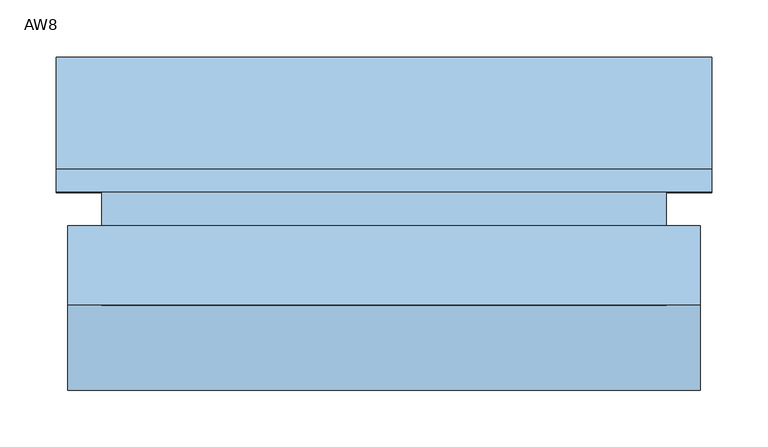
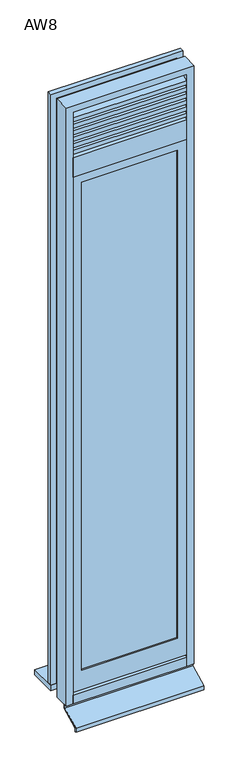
"""IFC4 building model written with IfcOpenShell, lengths in millimetres: window geometry, 営_段窓_FIX/ガラリ : AW8."""

from ifc_helpers import new_model, si_unit, frame, origin, place, context, project, spatial, polyline, outline, extrude, source, transform, mapped, element, save


def aw8_65036946(model_context):
    return source(origin(), model_context, "Body", "SweptSolid", [
        extrude(outline(polyline([(-70.0, 2623.2493654), (-25.0, 2643.2493654), (-25.0, 2655.0), (-20.0, 2655.0), (-20.0, 2640.0), (-65.0, 2620.0), (-65.0, 2605.0), (-70.0, 2605.0), (-70.0, 2623.2493654)])), frame((-250.0, 0.0, 0.0), z_axis=(1.0, 0.0, 0.0), x_axis=(0.0, 1.0, 0.0)), (0.0, 0.0, 1.0), 500.0),
        extrude(outline(polyline([(-70.0, 2593.2493654), (-25.0, 2613.2493654), (-25.0, 2625.0), (-20.0, 2625.0), (-20.0, 2610.0), (-65.0, 2590.0), (-65.0, 2575.0), (-70.0, 2575.0), (-70.0, 2593.2493654)])), frame((-250.0, 0.0, 0.0), z_axis=(1.0, 0.0, 0.0), x_axis=(0.0, 1.0, 0.0)), (0.0, 0.0, 1.0), 500.0),
        extrude(outline(polyline([(-70.0, 2563.2493654), (-25.0, 2583.2493654), (-25.0, 2595.0), (-20.0, 2595.0), (-20.0, 2580.0), (-65.0, 2560.0), (-65.0, 2545.0), (-70.0, 2545.0), (-70.0, 2563.2493654)])), frame((-250.0, 0.0, 0.0), z_axis=(1.0, 0.0, 0.0), x_axis=(0.0, 1.0, 0.0)), (0.0, 0.0, 1.0), 500.0),
        extrude(outline(polyline([(-70.0, 2533.2493654), (-25.0, 2553.2493654), (-25.0, 2565.0), (-20.0, 2565.0), (-20.0, 2550.0), (-65.0, 2530.0), (-65.0, 2515.0), (-70.0, 2515.0), (-70.0, 2533.2493654)])), frame((-250.0, 0.0, 0.0), z_axis=(1.0, 0.0, 0.0), x_axis=(0.0, 1.0, 0.0)), (0.0, 0.0, 1.0), 500.0),
        extrude(outline(polyline([(-70.0, 2653.2493654), (-25.0, 2673.2493654), (-25.0, 2685.0), (-20.0, 2685.0), (-20.0, 2670.0), (-65.0, 2650.0), (-65.0, 2635.0), (-70.0, 2635.0), (-70.0, 2653.2493654)])), frame((-250.0, 0.0, 0.0), z_axis=(1.0, 0.0, 0.0), x_axis=(0.0, 1.0, 0.0)), (0.0, 0.0, 1.0), 500.0),
        extrude(outline(polyline([(-70.0, 2503.2493654), (-25.0, 2523.2493654), (-25.0, 2535.0), (-20.0, 2535.0), (-20.0, 2520.0), (-65.0, 2500.0), (-65.0, 2485.0), (-70.0, 2485.0), (-70.0, 2503.2493654)])), frame((-250.0, 0.0, 0.0), z_axis=(1.0, 0.0, 0.0), x_axis=(0.0, 1.0, 0.0)), (0.0, 0.0, 1.0), 500.0),
        extrude(outline(polyline([(0.0, 250.0), (2385.0, 250.0), (2385.0, -250.0), (0.0, -250.0), (0.0, 250.0)]), holes=[polyline([(90.0, 210.0), (90.0, -210.0), (2345.0, -210.0), (2345.0, 210.0), (90.0, 210.0)])]), frame((0.0, -70.0, 0.0), z_axis=(0.0, 1.0, 0.0), x_axis=(0.0, 0.0, 1.0)), (0.0, 0.0, 1.0), 30.0),
        extrude(outline(polyline([(210.0, -60.0), (210.0, -65.0), (-210.0, -65.0), (-210.0, -60.0), (210.0, -60.0)])), frame((0.0, 0.0, 90.0), z_axis=(0.0, 0.0, 1.0), x_axis=(1.0, 0.0, 0.0)), (0.0, 0.0, 1.0), 2255.0),
        extrude(outline(polyline([(290.0, 145.0), (290.0, 25.0), (-290.0, 25.0), (-290.0, 145.0), (290.0, 145.0)])), frame((0.0, 0.0, -35.0), z_axis=(0.0, 0.0, 1.0), x_axis=(1.0, 0.0, 0.0)), (0.0, 0.0, 1.0), 25.0),
        extrude(outline(polyline([(-65.0, -65.0), (-65.0, -50.0), (-60.0, -50.0), (-60.0, -68.1730277), (-145.0014518, -108.1737109), (-145.0014518, -125.0), (-150.0, -125.0), (-150.0, -105.0), (-65.0, -65.0)])), frame((-280.0, 0.0, 0.0), z_axis=(1.0, 0.0, 0.0), x_axis=(0.0, 1.0, 0.0)), (0.0, 0.0, 1.0), 560.0),
        extrude(outline(polyline([(-35.0, -265.0), (2695.0, -265.0), (2695.0, 265.0), (-35.0, 265.0), (-35.0, 290.0), (2720.0, 290.0), (2720.0, -290.0), (-35.0, -290.0), (-35.0, -265.0)])), frame((0.0, 25.0, 0.0), z_axis=(0.0, 1.0, 0.0), x_axis=(0.0, 0.0, 1.0)), (0.0, 0.0, 1.0), 20.0),
        extrude(outline(polyline([(-50.0, -250.0), (2685.0, -250.0), (2685.0, 250.0), (-50.0, 250.0), (-50.0, 280.0), (2715.0, 280.0), (2715.0, -280.0), (-50.0, -280.0), (-50.0, -250.0)])), frame((0.0, -75.0, 0.0), z_axis=(0.0, 1.0, 0.0), x_axis=(0.0, 0.0, 1.0)), (0.0, 0.0, 1.0), 70.0),
        extrude(outline(polyline([(25.0, -50.0), (-75.0, -50.0), (-75.0, -9.3333333), (25.0, 0.0), (25.0, -50.0)])), frame((-250.0, 0.0, 0.0), z_axis=(1.0, 0.0, 0.0), x_axis=(0.0, 1.0, 0.0)), (0.0, 0.0, 1.0), 500.0),
        extrude(outline(polyline([(-75.0, 2385.0), (-75.0, 2475.0), (25.0, 2485.0), (25.0, 2385.0), (-75.0, 2385.0)])), frame((-250.0, 0.0, 0.0), z_axis=(1.0, 0.0, 0.0), x_axis=(0.0, 1.0, 0.0)), (0.0, 0.0, 1.0), 500.0),
    ])


if __name__ == "__main__":
    model = new_model("IFC4")
    model_context = context("Model", 3, world=origin())
    ifc_project = project(units=[si_unit("LENGTHUNIT", "METRE", prefix="MILLI")], contexts=[model_context])
    site = spatial("IfcSite", under=ifc_project)
    building = spatial("IfcBuilding", under=site)
    placement = place(None, origin())
    aw8_shape = aw8_65036946(model_context)
    element("IfcWindow", 1, ObjectType="営_段窓_FIX/ガラリ : AW8", at=placement, inside=building, context=model_context, shape_type="MappedRepresentation", body=[
        mapped(aw8_shape, transform((0.0, 0.0, 0.0), x_axis=(1.0, 0.0, 0.0), y_axis=(0.0, 1.0, 0.0), z_axis=(0.0, 0.0, 1.0))),
    ])
    save(model, "model.ifc")
